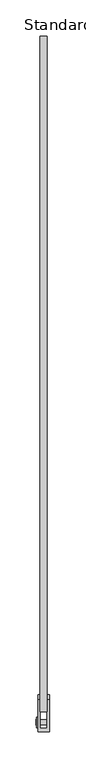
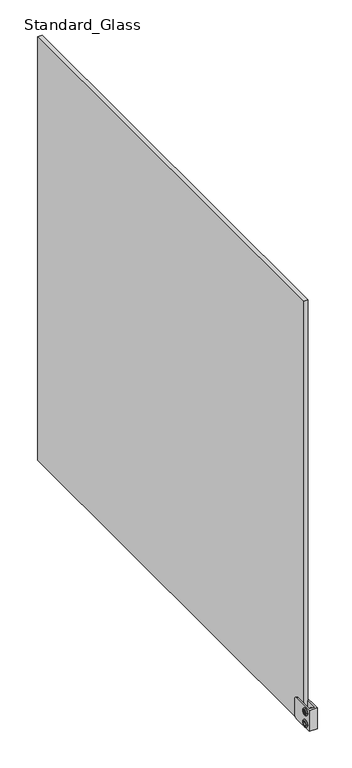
"""IFC4 building model written with IfcOpenShell, lengths in millimetres: railing geometry, Baluster-Excess-Fill-Straight-Panel-VIVA : Standard_Glass."""

from ifc_helpers import new_model, si_unit, point, frame, origin, place, context, project, spatial, polyline, circle_curve, ellipse_curve, trimmed, outline, extrude, source, transform, mapped, element, save
from ifc_brep_helpers import plane_surface, cylinder_surface, revolved_surface, advanced_brep


def standard_glass_15c9b434(model_context):
    return source(origin(), model_context, "Body", "SolidModel", [
        advanced_brep(
        [(36.7665, -946.6850647, 138.7358896), (24.0665, -946.6850647, 138.7358896), (24.0665, -939.5941729, 138.7358896), (36.7665, -939.5941729, 138.7358896), (24.0665, -950.5474079, 138.7358896), (24.0665, -935.7318297, 138.7358896), (23.199388, -944.7956942, 138.7358896), (36.7665, -944.7956942, 138.7358896), (36.7665, -941.4835434, 138.7358896), (23.199388, -941.4835434, 138.7358896), (23.2316551, -950.5474079, 138.7358896), (21.9503831, -949.2661359, 138.7358896), (21.9503831, -937.0131018, 138.7358896), (23.2316551, -935.7318297, 138.7358896), (21.9503831, -947.4382144, 138.7358896), (21.9503831, -938.8410233, 138.7358896), (23.199388, -947.4382144, 138.7358896), (23.199388, -938.8410233, 138.7358896)],
        [
            (0, 1),
            (1, 2, circle_curve(frame((24.0665, -943.1396188, 138.7358896), z_axis=(1.0, 0.0, 0.0), x_axis=(0.0, 1.0, 0.0)), 3.5454459)),
            (2, 3),
            (3, 0, circle_curve(frame((36.7665, -943.1396188, 138.7358896), z_axis=(-1.0, 0.0, 0.0), x_axis=(0.0, 1.0, 0.0)), 3.5454459)),
            (2, 1, circle_curve(frame((24.0665, -943.1396188, 138.7358896), z_axis=(1.0, 0.0, 0.0), x_axis=(0.0, 1.0, 0.0)), 3.5454459)),
            (0, 3, circle_curve(frame((36.7665, -943.1396188, 138.7358896), z_axis=(-1.0, 0.0, 0.0), x_axis=(0.0, 1.0, 0.0)), 3.5454459)),
            (1, 4),
            (4, 5, circle_curve(frame((24.0665, -943.1396188, 138.7358896), z_axis=(1.0, 0.0, 0.0), x_axis=(0.0, 1.0, 0.0)), 7.4077891)),
            (5, 2),
            (5, 4, circle_curve(frame((24.0665, -943.1396188, 138.7358896), z_axis=(1.0, 0.0, 0.0), x_axis=(0.0, 1.0, 0.0)), 7.4077891)),
            (6, 7),
            (7, 8, circle_curve(frame((36.7665, -943.1396188, 138.7358896), z_axis=(1.0, 0.0, 0.0), x_axis=(0.0, 1.0, 0.0)), 1.6560754)),
            (8, 9),
            (9, 6, circle_curve(frame((23.199388, -943.1396188, 138.7358896), z_axis=(-1.0, 0.0, 0.0), x_axis=(0.0, 1.0, 0.0)), 1.6560754)),
            (8, 7, circle_curve(frame((36.7665, -943.1396188, 138.7358896), z_axis=(1.0, 0.0, 0.0), x_axis=(0.0, 1.0, 0.0)), 1.6560754)),
            (6, 9, circle_curve(frame((23.199388, -943.1396188, 138.7358896), z_axis=(-1.0, 0.0, 0.0), x_axis=(0.0, 1.0, 0.0)), 1.6560754)),
            (10, 11, circle_curve(frame((23.2316551, -949.2661359, 138.7358896), z_axis=(0.0, 0.0, -1.0), x_axis=(0.0, -1.0, 0.0)), 1.281272)),
            (11, 12, circle_curve(frame((21.9503831, -943.1396188, 138.7358896), z_axis=(1.0, 0.0, 0.0), x_axis=(0.0, 1.0, 0.0)), 6.1265171)),
            (12, 13, circle_curve(frame((23.2316551, -937.0131018, 138.7358896), z_axis=(0.0, 0.0, -1.0), x_axis=(0.0, 1.0, 0.0)), 1.281272)),
            (13, 10, circle_curve(frame((23.2316551, -943.1396188, 138.7358896), z_axis=(-1.0, 0.0, 0.0), x_axis=(0.0, 1.0, 0.0)), 7.4077891)),
            (12, 11, circle_curve(frame((21.9503831, -943.1396188, 138.7358896), z_axis=(1.0, 0.0, 0.0), x_axis=(0.0, 1.0, 0.0)), 6.1265171)),
            (10, 13, circle_curve(frame((23.2316551, -943.1396188, 138.7358896), z_axis=(-1.0, 0.0, 0.0), x_axis=(0.0, 1.0, 0.0)), 7.4077891)),
            (11, 14),
            (14, 15, circle_curve(frame((21.9503831, -943.1396188, 138.7358896), z_axis=(1.0, 0.0, 0.0), x_axis=(0.0, 1.0, 0.0)), 4.2985955)),
            (15, 12),
            (15, 14, circle_curve(frame((21.9503831, -943.1396188, 138.7358896), z_axis=(1.0, 0.0, 0.0), x_axis=(0.0, 1.0, 0.0)), 4.2985955)),
            (4, 10),
            (13, 5),
            (7, 0),
            (3, 8),
            (14, 16),
            (16, 17, circle_curve(frame((23.199388, -943.1396188, 138.7358896), z_axis=(1.0, 0.0, 0.0), x_axis=(0.0, 1.0, 0.0)), 4.2985955)),
            (17, 15),
            (17, 16, circle_curve(frame((23.199388, -943.1396188, 138.7358896), z_axis=(1.0, 0.0, 0.0), x_axis=(0.0, 1.0, 0.0)), 4.2985955)),
            (16, 6),
            (9, 17),
        ],
        [
            cylinder_surface(frame((27.5632331, -943.1396188, 138.7358896), z_axis=(1.0, 0.0, 0.0), x_axis=(0.0, 1.0, 0.0)), 3.5454459),
            plane_surface(frame((24.0665, -943.1396188, 138.7358896), z_axis=(1.0, 0.0, 0.0), x_axis=(0.0, 1.0, 0.0))),
            revolved_surface(polyline([(36.7665, -941.4835434, 138.7358896), (23.199388, -941.4835434, 138.7358896)]), (27.5632331, -943.1396188, 138.7358896), (1.0, 0.0, 0.0)),
            revolved_surface(trimmed(ellipse_curve(frame((23.2316551, -937.0131018, 138.7358896), z_axis=(0.0, 0.0, -1.0), x_axis=(0.0, 1.0, 0.0)), 1.281272, 1.281272), [point((21.9503831, -937.0131018, 138.7358896))], [point((23.2316551, -935.7318297, 138.7358896))], True, "CARTESIAN"), (27.5632331, -943.1396188, 138.7358896), (1.0, 0.0, 0.0)),
            plane_surface(frame((21.9503831, -943.1396188, 138.7358896), z_axis=(-1.0, 0.0, 0.0), x_axis=(0.0, 1.0, 0.0))),
            cylinder_surface(frame((27.5632331, -943.1396188, 138.7358896), z_axis=(1.0, 0.0, 0.0), x_axis=(0.0, 1.0, 0.0)), 7.4077891),
            plane_surface(frame((36.7665, -943.1396188, 138.7358896), z_axis=(1.0, 0.0, 0.0), x_axis=(0.0, 1.0, 0.0))),
            revolved_surface(polyline([(23.199388, -938.8410233, 138.7358896), (21.9503831, -938.8410233, 138.7358896)]), (27.5632331, -943.1396188, 138.7358896), (1.0, 0.0, 0.0)),
            plane_surface(frame((23.199388, -943.1396188, 138.7358896), z_axis=(-1.0, 0.0, 0.0), x_axis=(0.0, 1.0, 0.0))),
        ],
        [
            (0, [[1, 2, 3, 4]]),
            (0, [[-3, 5, -1, 6]]),
            (1, [[7, 8, 9, -2]]),
            (1, [[-9, 10, -7, -5]]),
            (2, [[11, 12, 13, 14]]),
            (2, [[-13, 15, -11, 16]]),
            (3, [[17, 18, 19, 20]]),
            (3, [[-19, 21, -17, 22]]),
            (4, [[23, 24, 25, -18]]),
            (4, [[-25, 26, -23, -21]]),
            (5, [[27, -20, 28, -8]]),
            (5, [[-28, -22, -27, -10]]),
            (6, [[29, -4, 30, -12]]),
            (6, [[-30, -6, -29, -15]]),
            (7, [[31, 32, 33, -24]]),
            (7, [[-33, 34, -31, -26]]),
            (8, [[35, -14, 36, -32]]),
            (8, [[-36, -16, -35, -34]]),
        ],
    ),
        advanced_brep(
        [(36.7665, -946.6850647, 114.1296396), (24.0665, -946.6850647, 114.1296396), (24.0665, -939.5941729, 114.1296396), (36.7665, -939.5941729, 114.1296396), (24.0665, -950.5474079, 114.1296396), (24.0665, -935.7318297, 114.1296396), (23.199388, -944.7956942, 114.1296396), (36.7665, -944.7956942, 114.1296396), (36.7665, -941.4835434, 114.1296396), (23.199388, -941.4835434, 114.1296396), (23.2316551, -950.5474079, 114.1296396), (21.9503831, -949.2661359, 114.1296396), (21.9503831, -937.0131018, 114.1296396), (23.2316551, -935.7318297, 114.1296396), (21.9503831, -947.4382144, 114.1296396), (21.9503831, -938.8410233, 114.1296396), (23.199388, -947.4382144, 114.1296396), (23.199388, -938.8410233, 114.1296396)],
        [
            (0, 1),
            (1, 2, circle_curve(frame((24.0665, -943.1396188, 114.1296396), z_axis=(1.0, 0.0, 0.0), x_axis=(0.0, 1.0, 0.0)), 3.5454459)),
            (2, 3),
            (3, 0, circle_curve(frame((36.7665, -943.1396188, 114.1296396), z_axis=(-1.0, 0.0, 0.0), x_axis=(0.0, 1.0, 0.0)), 3.5454459)),
            (2, 1, circle_curve(frame((24.0665, -943.1396188, 114.1296396), z_axis=(1.0, 0.0, 0.0), x_axis=(0.0, 1.0, 0.0)), 3.5454459)),
            (0, 3, circle_curve(frame((36.7665, -943.1396188, 114.1296396), z_axis=(-1.0, 0.0, 0.0), x_axis=(0.0, 1.0, 0.0)), 3.5454459)),
            (1, 4),
            (4, 5, circle_curve(frame((24.0665, -943.1396188, 114.1296396), z_axis=(1.0, 0.0, 0.0), x_axis=(0.0, 1.0, 0.0)), 7.4077891)),
            (5, 2),
            (5, 4, circle_curve(frame((24.0665, -943.1396188, 114.1296396), z_axis=(1.0, 0.0, 0.0), x_axis=(0.0, 1.0, 0.0)), 7.4077891)),
            (6, 7),
            (7, 8, circle_curve(frame((36.7665, -943.1396188, 114.1296396), z_axis=(1.0, 0.0, 0.0), x_axis=(0.0, 1.0, 0.0)), 1.6560754)),
            (8, 9),
            (9, 6, circle_curve(frame((23.199388, -943.1396188, 114.1296396), z_axis=(-1.0, 0.0, 0.0), x_axis=(0.0, 1.0, 0.0)), 1.6560754)),
            (8, 7, circle_curve(frame((36.7665, -943.1396188, 114.1296396), z_axis=(1.0, 0.0, 0.0), x_axis=(0.0, 1.0, 0.0)), 1.6560754)),
            (6, 9, circle_curve(frame((23.199388, -943.1396188, 114.1296396), z_axis=(-1.0, 0.0, 0.0), x_axis=(0.0, 1.0, 0.0)), 1.6560754)),
            (10, 11, circle_curve(frame((23.2316551, -949.2661359, 114.1296396), z_axis=(0.0, 0.0, -1.0), x_axis=(0.0, -1.0, 0.0)), 1.281272)),
            (11, 12, circle_curve(frame((21.9503831, -943.1396188, 114.1296396), z_axis=(1.0, 0.0, 0.0), x_axis=(0.0, 1.0, 0.0)), 6.1265171)),
            (12, 13, circle_curve(frame((23.2316551, -937.0131018, 114.1296396), z_axis=(0.0, 0.0, -1.0), x_axis=(0.0, 1.0, 0.0)), 1.281272)),
            (13, 10, circle_curve(frame((23.2316551, -943.1396188, 114.1296396), z_axis=(-1.0, 0.0, 0.0), x_axis=(0.0, 1.0, 0.0)), 7.4077891)),
            (12, 11, circle_curve(frame((21.9503831, -943.1396188, 114.1296396), z_axis=(1.0, 0.0, 0.0), x_axis=(0.0, 1.0, 0.0)), 6.1265171)),
            (10, 13, circle_curve(frame((23.2316551, -943.1396188, 114.1296396), z_axis=(-1.0, 0.0, 0.0), x_axis=(0.0, 1.0, 0.0)), 7.4077891)),
            (11, 14),
            (14, 15, circle_curve(frame((21.9503831, -943.1396188, 114.1296396), z_axis=(1.0, 0.0, 0.0), x_axis=(0.0, 1.0, 0.0)), 4.2985955)),
            (15, 12),
            (15, 14, circle_curve(frame((21.9503831, -943.1396188, 114.1296396), z_axis=(1.0, 0.0, 0.0), x_axis=(0.0, 1.0, 0.0)), 4.2985955)),
            (7, 0),
            (3, 8),
            (4, 10),
            (13, 5),
            (14, 16),
            (16, 17, circle_curve(frame((23.199388, -943.1396188, 114.1296396), z_axis=(1.0, 0.0, 0.0), x_axis=(0.0, 1.0, 0.0)), 4.2985955)),
            (17, 15),
            (17, 16, circle_curve(frame((23.199388, -943.1396188, 114.1296396), z_axis=(1.0, 0.0, 0.0), x_axis=(0.0, 1.0, 0.0)), 4.2985955)),
            (16, 6),
            (9, 17),
        ],
        [
            cylinder_surface(frame((27.5632331, -943.1396188, 114.1296396), z_axis=(1.0, 0.0, 0.0), x_axis=(0.0, 1.0, 0.0)), 3.5454459),
            plane_surface(frame((24.0665, -943.1396188, 114.1296396), z_axis=(1.0, 0.0, 0.0), x_axis=(0.0, 1.0, 0.0))),
            revolved_surface(polyline([(36.7665, -941.4835434, 114.1296396), (23.199388, -941.4835434, 114.1296396)]), (27.5632331, -943.1396188, 114.1296396), (1.0, 0.0, 0.0)),
            revolved_surface(trimmed(ellipse_curve(frame((23.2316551, -937.0131018, 114.1296396), z_axis=(0.0, 0.0, -1.0), x_axis=(0.0, 1.0, 0.0)), 1.281272, 1.281272), [point((21.9503831, -937.0131018, 114.1296396))], [point((23.2316551, -935.7318297, 114.1296396))], True, "CARTESIAN"), (27.5632331, -943.1396188, 114.1296396), (1.0, 0.0, 0.0)),
            plane_surface(frame((21.9503831, -943.1396188, 114.1296396), z_axis=(-1.0, 0.0, 0.0), x_axis=(0.0, 1.0, 0.0))),
            plane_surface(frame((36.7665, -943.1396188, 114.1296396), z_axis=(1.0, 0.0, 0.0), x_axis=(0.0, 1.0, 0.0))),
            cylinder_surface(frame((27.5632331, -943.1396188, 114.1296396), z_axis=(1.0, 0.0, 0.0), x_axis=(0.0, 1.0, 0.0)), 7.4077891),
            revolved_surface(polyline([(23.199388, -938.8410233, 114.1296396), (21.9503831, -938.8410233, 114.1296396)]), (27.5632331, -943.1396188, 114.1296396), (1.0, 0.0, 0.0)),
            plane_surface(frame((23.199388, -943.1396188, 114.1296396), z_axis=(-1.0, 0.0, 0.0), x_axis=(0.0, 1.0, 0.0))),
        ],
        [
            (0, [[1, 2, 3, 4]]),
            (0, [[-3, 5, -1, 6]]),
            (1, [[7, 8, 9, -2]]),
            (1, [[-9, 10, -7, -5]]),
            (2, [[11, 12, 13, 14]]),
            (2, [[-13, 15, -11, 16]]),
            (3, [[17, 18, 19, 20]]),
            (3, [[-19, 21, -17, 22]]),
            (4, [[23, 24, 25, -18]]),
            (4, [[-25, 26, -23, -21]]),
            (5, [[27, -4, 28, -12]]),
            (5, [[-28, -6, -27, -15]]),
            (6, [[29, -20, 30, -8]]),
            (6, [[-30, -22, -29, -10]]),
            (7, [[31, 32, 33, -24]]),
            (7, [[-33, 34, -31, -26]]),
            (8, [[35, -14, 36, -32]]),
            (8, [[-36, -16, -35, -34]]),
        ],
    ),
        extrude(outline(polyline([(-947.2335471, 114.1296396), (-945.186583, 117.6750855), (-941.0926547, 117.6750855), (-939.0456905, 114.1296396), (-941.0926547, 110.5841937), (-945.186583, 110.5841937), (-947.2335471, 114.1296396)])), frame((21.7024185, 0.0, 0.0), z_axis=(1.0, 0.0, 0.0), x_axis=(0.0, 1.0, 0.0)), (0.0, 0.0, 1.0), 1.4969696),
        advanced_brep(
        [(24.0665, -955.7729636, 148.6577646), (24.0665, -911.3229636, 148.6577646), (24.0665, -904.9729636, 142.3077646), (24.0665, -904.9729636, 110.5577646), (24.0665, -911.3229636, 104.2077646), (24.0665, -955.7729636, 104.2077646), (39.9415, -955.7729636, 148.6577646), (39.9415, -955.7729636, 104.2077646), (39.9415, -911.3229636, 104.2077646), (39.9415, -904.9729636, 110.5577646), (39.9415, -904.9729636, 142.3077646), (39.9415, -911.3229636, 148.6577646), (27.2415, -911.3229636, 104.2077646), (27.2415, -951.0548832, 104.2077646), (36.7665, -951.0548832, 104.2077646), (36.7665, -911.3229636, 104.2077646), (27.2415, -951.0548832, 148.6577646), (36.7665, -951.0548832, 148.6577646), (27.2415, -904.9729636, 110.5577646), (27.2415, -904.9729636, 142.3077646), (27.2415, -911.3229636, 148.6577646), (36.7665, -911.3229636, 148.6577646), (36.7665, -904.9729636, 142.3077646), (36.7665, -904.9729636, 110.5577646)],
        [
            (0, 1),
            (1, 2, circle_curve(frame((24.0665, -911.3229636, 142.3077646), z_axis=(-1.0, 0.0, 0.0), x_axis=(0.0, 1.0, 0.0)), 6.35)),
            (2, 3),
            (3, 4, circle_curve(frame((24.0665, -911.3229636, 110.5577646), z_axis=(-1.0, 0.0, 0.0), x_axis=(0.0, 1.0, 0.0)), 6.35)),
            (4, 5),
            (5, 0),
            (6, 7),
            (7, 8),
            (8, 9, circle_curve(frame((39.9415, -911.3229636, 110.5577646), z_axis=(1.0, 0.0, 0.0), x_axis=(0.0, 1.0, 0.0)), 6.35)),
            (9, 10),
            (10, 11, circle_curve(frame((39.9415, -911.3229636, 142.3077646), z_axis=(1.0, 0.0, 0.0), x_axis=(0.0, 1.0, 0.0)), 6.35)),
            (11, 6),
            (5, 7),
            (6, 0),
            (4, 12),
            (12, 13),
            (13, 14),
            (14, 15),
            (15, 8),
            (13, 16),
            (16, 17),
            (17, 14),
            (12, 18, circle_curve(frame((27.2415, -911.3229636, 110.5577646), z_axis=(1.0, 0.0, 0.0), x_axis=(0.0, 1.0, 0.0)), 6.35)),
            (18, 19),
            (19, 20, circle_curve(frame((27.2415, -911.3229636, 142.3077646), z_axis=(1.0, 0.0, 0.0), x_axis=(0.0, 1.0, 0.0)), 6.35)),
            (20, 16),
            (17, 21),
            (21, 22, circle_curve(frame((36.7665, -911.3229636, 142.3077646), z_axis=(-1.0, 0.0, 0.0), x_axis=(0.0, 1.0, 0.0)), 6.35)),
            (22, 23),
            (23, 15, circle_curve(frame((36.7665, -911.3229636, 110.5577646), z_axis=(-1.0, 0.0, 0.0), x_axis=(0.0, 1.0, 0.0)), 6.35)),
            (23, 9),
            (3, 18),
            (22, 10),
            (2, 19),
            (21, 11),
            (1, 20),
        ],
        [
            plane_surface(frame((24.0665, -955.7729636, 104.2077646), z_axis=(-1.0, 0.0, 0.0), x_axis=(0.0, 0.0, -1.0))),
            plane_surface(frame((39.9415, -955.7729636, 104.2077646), z_axis=(1.0, 0.0, 0.0), x_axis=(0.0, 0.0, 1.0))),
            plane_surface(frame((24.0665, -955.7729636, 148.6577646), z_axis=(0.0, -1.0, 0.0), x_axis=(1.0, 0.0, 0.0))),
            plane_surface(frame((24.0665, -955.7729636, 104.2077646), z_axis=(0.0, 0.0, -1.0), x_axis=(1.0, 0.0, 0.0))),
            plane_surface(frame((36.7665, -951.0548832, 161.3577646), z_axis=(0.0, 1.0, 0.0), x_axis=(0.0, 0.0, -1.0))),
            plane_surface(frame((27.2415, -951.0548832, 161.3577646), z_axis=(1.0, 0.0, 0.0), x_axis=(0.0, 0.0, -1.0))),
            plane_surface(frame((36.7665, -892.2729636, 161.3577646), z_axis=(-1.0, 0.0, 0.0), x_axis=(0.0, 0.0, -1.0))),
            cylinder_surface(frame((39.9415, -911.3229636, 110.5577646), z_axis=(-1.0, 0.0, 0.0), x_axis=(0.0, 1.0, 0.0)), 6.35),
            plane_surface(frame((24.0665, -904.9729636, 110.5577646), z_axis=(0.0, 1.0, 0.0), x_axis=(1.0, 0.0, 0.0))),
            cylinder_surface(frame((39.9415, -911.3229636, 142.3077646), z_axis=(-1.0, 0.0, 0.0), x_axis=(0.0, 1.0, 0.0)), 6.35),
            plane_surface(frame((24.0665, -911.3229636, 148.6577646), z_axis=(0.0, 0.0, 1.0), x_axis=(1.0, 0.0, 0.0))),
        ],
        [
            (0, [[1, 2, 3, 4, 5, 6]]),
            (1, [[7, 8, 9, 10, 11, 12]]),
            (2, [[13, -7, 14, -6]]),
            (3, [[15, 16, 17, 18, 19, -8, -13, -5]]),
            (4, [[-17, 20, 21, 22]]),
            (5, [[-16, 23, 24, 25, 26, -20]]),
            (6, [[27, 28, 29, 30, -18, -22]]),
            (7, [[-19, -30, 31, -9]]),
            (7, [[32, -23, -15, -4]]),
            (8, [[-31, -29, 33, -10]]),
            (8, [[34, -24, -32, -3]]),
            (9, [[-33, -28, 35, -11]]),
            (9, [[36, -25, -34, -2]]),
            (10, [[-14, -12, -35, -27, -21, -26, -36, -1]]),
        ],
    ),
        extrude(outline(polyline([(36.7665, -1.0851207), (36.7665, -928.8298832), (27.2415, -928.8298832), (27.2415, -1.0851207), (36.7665, -1.0851207)])), frame((0.0, 0.0, 101.6), z_axis=(0.0, 0.0, 1.0), x_axis=(1.0, 0.0, 0.0)), (0.0, 0.0, 1.0), 901.7),
    ])


if __name__ == "__main__":
    model = new_model("IFC4")
    model_context = context("Model", 3, world=origin())
    ifc_project = project(units=[si_unit("LENGTHUNIT", "METRE", prefix="MILLI")], contexts=[model_context])
    site = spatial("IfcSite", under=ifc_project)
    building = spatial("IfcBuilding", under=site)
    placement = place(None, origin())
    standard_glass_shape = standard_glass_15c9b434(model_context)
    element("IfcRailing", 1, ObjectType="Baluster-Excess-Fill-Straight-Panel-VIVA : Standard_Glass", at=placement, inside=building, context=model_context, shape_type="MappedRepresentation", body=[
        mapped(standard_glass_shape, transform((0.0, 0.0, 0.0), x_axis=(1.0, 0.0, 0.0), y_axis=(0.0, 1.0, 0.0), z_axis=(0.0, 0.0, 1.0))),
    ])
    save(model, "model.ifc")
